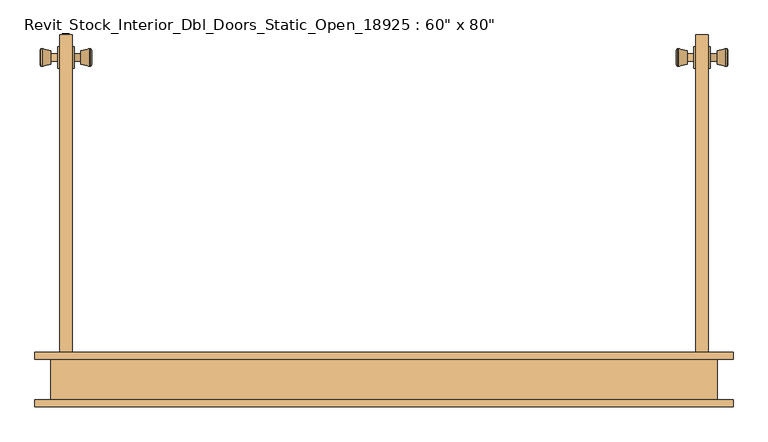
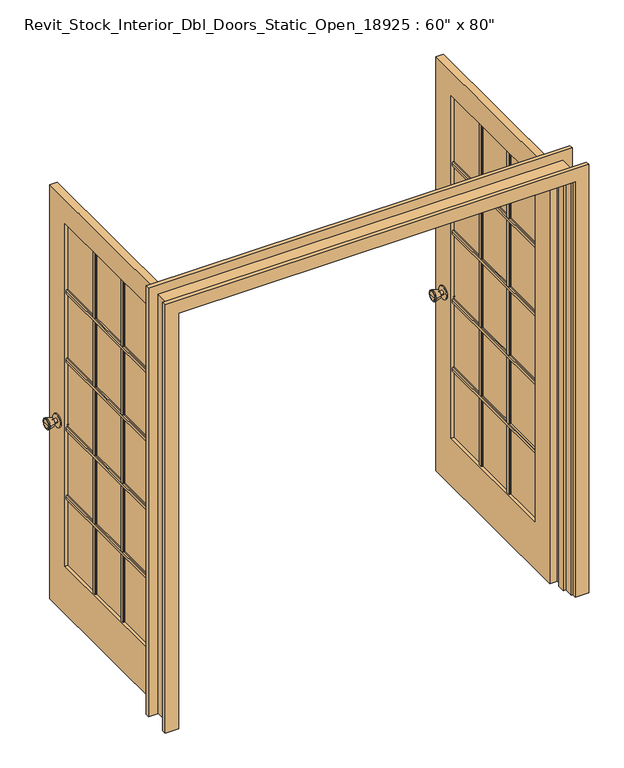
"""IFC4 building model written with IfcOpenShell, lengths in millimetres: door geometry."""

import ifcopenshell
import ifcopenshell.guid

model = None  # the IFC model being written
_history = None  # IfcOwnerHistory: only IFC2X3 demands one
_inside = {}  # id of a spatial element -> (the spatial element, [elements in it])
_under = {}  # id of a project, library or spatial element -> (it, [spatial elements below it])
_declared = {}  # id of a project -> (the project, [libraries it declares])
_typed = {}  # id of a type object -> (the type object, [elements of that type])
_made_of = {}  # id of a material, layer set ... -> (it, [elements and type objects made of it])


def new_model(schema):
    """Start an empty IFC model of exactly this schema.

    Asked for "IFC4X3", IfcOpenShell would pick the latest addendum, in which some entities
    have other attributes; the version numbers below select the first issue.
    IFC2X3 requires an IfcOwnerHistory on every rooted entity: one is made here for all.
    """
    global model, _history
    if schema == "IFC4X3":
        model = ifcopenshell.file(schema_version=(4, 3, 0, 0))
    else:
        model = ifcopenshell.file(schema=schema)
    _inside.clear()
    _under.clear()
    _declared.clear()
    _typed.clear()
    _made_of.clear()
    _history = None
    if model.schema == "IFC2X3":
        org = make("IfcOrganization", Name="unknown")
        user = make(
            "IfcPersonAndOrganization",
            ThePerson=make("IfcPerson", FamilyName="unknown"),
            TheOrganization=org,
        )
        app = make(
            "IfcApplication",
            ApplicationDeveloper=org,
            Version="unknown",
            ApplicationFullName="unknown",
            ApplicationIdentifier="unknown",
        )
        _history = make(
            "IfcOwnerHistory",
            OwningUser=user,
            OwningApplication=app,
            ChangeAction="ADDED",
            CreationDate=0,
        )
    return model


def make(cls, **values):
    """One entity of the class cls with the attributes given. An attribute that is None is left unset."""
    return model.create_entity(
        cls, **{name: value for name, value in values.items() if value is not None}
    )


def rooted(cls, **values):
    """An entity with a GlobalId (a new one), such as an element, a storey or a relation."""
    return make(cls, GlobalId=ifcopenshell.guid.new(), OwnerHistory=_history, **values)


def si_unit(unit_type, name, prefix=None):
    """IfcSIUnit, for example si_unit("LENGTHUNIT", "METRE", prefix="MILLI")."""
    return make("IfcSIUnit", UnitType=unit_type, Prefix=prefix, Name=name)


def assignment(units):
    """IfcUnitAssignment: the units of a project."""
    return None if units is None else make("IfcUnitAssignment", Units=units)


def point(xyz):
    """IfcCartesianPoint."""
    return None if xyz is None else make("IfcCartesianPoint", Coordinates=xyz)


def direction(xyz):
    """IfcDirection."""
    return None if xyz is None else make("IfcDirection", DirectionRatios=xyz)


def frame(location, z_axis=None, x_axis=None):
    """IfcAxis2Placement3D, a coordinate frame: its origin and axes. An axis left out is left unset."""
    return make(
        "IfcAxis2Placement3D",
        Location=point(location),
        Axis=direction(z_axis),
        RefDirection=direction(x_axis),
    )


def frame_2d(location, x_axis=None):
    """IfcAxis2Placement2D, a coordinate frame in the plane: its origin and x axis."""
    return make(
        "IfcAxis2Placement2D", Location=point(location), RefDirection=direction(x_axis)
    )


def origin():
    """The frame at (0, 0, 0) with its axes left unset."""
    return frame((0.0, 0.0, 0.0))


def place(relative_to, where):
    """IfcLocalPlacement: puts the frame where relative to a parent placement (None: the world)."""
    return make(
        "IfcLocalPlacement", PlacementRelTo=relative_to, RelativePlacement=where
    )


def context(
    kind, dimensions, precision=None, world=None, true_north=None, identifier=None
):
    """IfcGeometricRepresentationContext, for example the 3D "Model" context."""
    return make(
        "IfcGeometricRepresentationContext",
        ContextIdentifier=identifier,
        ContextType=kind,
        CoordinateSpaceDimension=dimensions,
        Precision=precision,
        WorldCoordinateSystem=world,
        TrueNorth=true_north,
    )


def project(units=None, contexts=None):
    """IfcProject with its units and contexts."""
    return rooted(
        "IfcProject",
        Name="project",
        RepresentationContexts=contexts,
        UnitsInContext=assignment(units),
    )


def spatial(cls, under=None, at=None, **own):
    """A site, building, storey or space (cls), placed at a placement, below another one or the project."""
    s = rooted(cls, ObjectPlacement=at, **own)
    if under is not None:
        _under.setdefault(under.id(), (under, []))[1].append(s)
    return s


def polyline(points):
    """IfcPolyline through the points."""
    return make("IfcPolyline", Points=[point(p) for p in points])


def circle_curve(where, radius):
    """IfcCircle in the frame where."""
    return make("IfcCircle", Position=where, Radius=radius)


def trimmed(basis, trim1, trim2, sense, master):
    """IfcTrimmedCurve: the piece of a basis curve between two trims."""
    return make(
        "IfcTrimmedCurve",
        BasisCurve=basis,
        Trim1=trim1,
        Trim2=trim2,
        SenseAgreement=sense,
        MasterRepresentation=master,
    )


def segment(curve, same_sense, transition):
    """IfcCompositeCurveSegment."""
    return make(
        "IfcCompositeCurveSegment",
        Transition=transition,
        SameSense=same_sense,
        ParentCurve=curve,
    )


def composite_curve(segments, self_intersect=None):
    """IfcCompositeCurve: segments joined end to end."""
    return make("IfcCompositeCurve", Segments=segments, SelfIntersect=self_intersect)


def outline(outer, holes=None, kind="AREA"):
    """IfcArbitraryClosedProfileDef: a profile drawn as a closed curve; with holes, ...WithVoids."""
    if holes is None:
        return make("IfcArbitraryClosedProfileDef", ProfileType=kind, OuterCurve=outer)
    return make(
        "IfcArbitraryProfileDefWithVoids",
        ProfileType=kind,
        OuterCurve=outer,
        InnerCurves=holes,
    )


def extrude(swept, where, along, depth):
    """IfcExtrudedAreaSolid: the profile swept, set in the frame where, extruded along a direction by depth."""
    return make(
        "IfcExtrudedAreaSolid",
        SweptArea=swept,
        Position=where,
        ExtrudedDirection=direction(along),
        Depth=depth,
    )


def faces_of(points, faces, orient=None, outer=None):
    """IfcFace entities. A face is a list of loops; a loop is a list of indices into points, from 0.

    orient and outer hold one flag for each loop. By default every Orientation is true, the
    first loop of a face is its IfcFaceOuterBound and the others are IfcFaceBound.
    """
    made = []
    for i, loops in enumerate(faces):
        bounds = []
        for j, loop in enumerate(loops):
            is_outer = j == 0 if outer is None else outer[i][j]
            bounds.append(
                make(
                    "IfcFaceOuterBound" if is_outer else "IfcFaceBound",
                    Bound=make("IfcPolyLoop", Polygon=[points[k] for k in loop]),
                    Orientation=True if orient is None else orient[i][j],
                )
            )
        made.append(make("IfcFace", Bounds=bounds))
    return made


def faceted_brep(points, faces, orient=None, outer=None, voids=None):
    """IfcFacetedBrep: a solid bounded by flat faces; with voids (closed shells), ...WithVoids."""
    shared = [point(p) for p in points]
    hull = make("IfcClosedShell", CfsFaces=faces_of(shared, faces, orient, outer))
    if voids is None:
        return make("IfcFacetedBrep", Outer=hull)
    return make(
        "IfcFacetedBrepWithVoids",
        Outer=hull,
        Voids=[
            make(cls, CfsFaces=faces_of(shared, fs, o, b)) for cls, fs, o, b in voids
        ],
    )


def shape(context_of_items, identifier, shape_type, items):
    """IfcShapeRepresentation: the items that make up one representation, for example the "Body"."""
    return make(
        "IfcShapeRepresentation",
        ContextOfItems=context_of_items,
        RepresentationIdentifier=identifier,
        RepresentationType=shape_type,
        Items=items,
    )


def source(mapping_origin, context_of_items, identifier, shape_type, items):
    """IfcRepresentationMap: a shape defined once, which mapped items show again and again."""
    return make(
        "IfcRepresentationMap",
        MappingOrigin=mapping_origin,
        MappedRepresentation=shape(context_of_items, identifier, shape_type, items),
    )


def transform(
    local_origin,
    x_axis=None,
    y_axis=None,
    z_axis=None,
    scale=None,
    scale2=None,
    scale3=None,
    uniform=True,
):
    """IfcCartesianTransformationOperator3D, or its non-uniform kind. x_axis, y_axis, z_axis: its Axis1, 2, 3."""
    if uniform:
        return make(
            "IfcCartesianTransformationOperator3D",
            Axis1=direction(x_axis),
            Axis2=direction(y_axis),
            LocalOrigin=point(local_origin),
            Scale=scale,
            Axis3=direction(z_axis),
        )
    return make(
        "IfcCartesianTransformationOperator3DnonUniform",
        Axis1=direction(x_axis),
        Axis2=direction(y_axis),
        LocalOrigin=point(local_origin),
        Scale=scale,
        Axis3=direction(z_axis),
        Scale2=scale2,
        Scale3=scale3,
    )


def mapped(mapping_source, mapping_target):
    """IfcMappedItem: shows the shape of a source again, moved by a transform."""
    return make(
        "IfcMappedItem", MappingSource=mapping_source, MappingTarget=mapping_target
    )


def made_of(thing, what):
    """Note that an element or type object is made of a material, layer set ...; save() writes the relation."""
    if what is not None:
        _made_of.setdefault(what.id(), (what, []))[1].append(thing)
    return thing


def element(
    cls,
    number,
    at=None,
    inside=None,
    cuts=None,
    type_object=None,
    material=None,
    context=None,
    identifier="Body",
    shape_type=None,
    held_by="IfcProductDefinitionShape",
    body=None,
    shapes=None,
    **own,
):
    """One element of the class cls, such as IfcWall. Its Tag is "e" and its number.

    at: its placement. inside: the storey or other place that contains it. cuts: it is an
    opening in that element (IfcRelVoidsElement). A single representation is given by context,
    identifier, shape_type and body (its items); several are given by shapes. held_by: the class
    of the entity that holds the representations. save() writes the other relations.
    """
    e = rooted(cls, Tag="e%d" % number, ObjectPlacement=at, **own)
    if body is not None:
        shapes = [shape(context, identifier, shape_type, body)]
    if shapes is not None:
        e.Representation = make(held_by, Representations=shapes)
    if inside is not None:
        _inside.setdefault(inside.id(), (inside, []))[1].append(e)
    if cuts is not None:
        rooted(
            "IfcRelVoidsElement", RelatingBuildingElement=cuts, RelatedOpeningElement=e
        )
    if type_object is not None:
        _typed.setdefault(type_object.id(), (type_object, []))[1].append(e)
    return made_of(e, material)


def aggregate(whole, parts):
    """IfcRelAggregates: a whole, such as a stair, and the parts it consists of."""
    return rooted("IfcRelAggregates", RelatingObject=whole, RelatedObjects=parts)


def save(model, path):
    """Write the relations noted so far, then the file.

    IfcRelAggregates (storeys below a building ...), IfcRelContainedInSpatialStructure (elements
    in a storey), IfcRelDefinesByType, IfcRelAssociatesMaterial and IfcRelDeclares: one each for
    every whole, place, type object, material and project.
    """
    for whole, parts in _under.values():
        aggregate(whole, parts)
    for where, things in _inside.values():
        rooted(
            "IfcRelContainedInSpatialStructure",
            RelatedElements=things,
            RelatingStructure=where,
        )
    for kind, things in _typed.values():
        rooted("IfcRelDefinesByType", RelatedObjects=things, RelatingType=kind)
    for what, things in _made_of.values():
        rooted("IfcRelAssociatesMaterial", RelatedObjects=things, RelatingMaterial=what)
    for by, libraries in _declared.values():
        rooted("IfcRelDeclares", RelatingContext=by, RelatedDefinitions=libraries)
    model.write(path)


def plane_surface(at):
    """IfcPlane: the flat surface through the origin of the frame at, square to its z axis."""
    return make("IfcPlane", Position=at)


def cylinder_surface(at, radius):
    """IfcCylindricalSurface: all points at the distance radius from the z axis of the frame at."""
    return make("IfcCylindricalSurface", Position=at, Radius=radius)


def revolved_surface(curve, axis_point, axis_direction):
    """IfcSurfaceOfRevolution: the curve turned about the line through axis_point along axis_direction."""
    return make(
        "IfcSurfaceOfRevolution",
        SweptCurve=make("IfcArbitraryOpenProfileDef", ProfileType="CURVE", Curve=curve),
        AxisPosition=make("IfcAxis1Placement", Location=point(axis_point), Axis=direction(axis_direction)),
    )


def advanced_brep(points, edges, surfaces, faces):
    """IfcAdvancedBrep: a solid bounded by faces that lie on surfaces and meet in shared edges.

    An edge is (start, end): straight between two places in points (the first is 0);
    or (start, end, curve); or (start, end, curve, False) where it runs against its curve.
    A face is (place in surfaces, loops), or (place, loops, False) where it looks against
    its surface's normal. A loop lists edges by number (the first is 1), with a minus sign
    where the edge is run from its end to its start. The first loop is the outer one.
    """
    corners = [point(p) for p in points]
    vertices = [make("IfcVertexPoint", VertexGeometry=c) for c in corners]
    made = []
    for start, end, *more in edges:
        made.append(
            make(
                "IfcEdgeCurve",
                EdgeStart=vertices[start],
                EdgeEnd=vertices[end],
                EdgeGeometry=more[0] if more else make("IfcPolyline", Points=[corners[start], corners[end]]),
                SameSense=more[1] if len(more) > 1 else True,
            )
        )
    hull = []
    for where, loops, *sense in faces:
        bounds = []
        for j, loop in enumerate(loops):
            ring = [make("IfcOrientedEdge", EdgeElement=made[abs(k) - 1], Orientation=k > 0) for k in loop]
            bounds.append(
                make(
                    "IfcFaceOuterBound" if j == 0 else "IfcFaceBound",
                    Bound=make("IfcEdgeLoop", EdgeList=ring),
                    Orientation=True,
                )
            )
        hull.append(make("IfcAdvancedFace", Bounds=bounds, FaceSurface=surfaces[where], SameSense=sense[0] if sense else True))
    return make("IfcAdvancedBrep", Outer=make("IfcClosedShell", CfsFaces=hull))


def door_9bace64e(model_context):
    return source(origin(), model_context, "Body", "SolidModel", [
        advanced_brep(
        [(-920.4, 904.875, 914.4), (-920.4, 894.875, 914.4), (-920.4, 914.875, 914.4), (-969.4, 884.3991324, 914.4), (-969.4, 904.875, 914.4), (-969.4, 925.3508676, 914.4), (-967.5721319, 879.875, 914.4), (-967.5721319, 929.875, 914.4), (-964.1084537, 879.875, 914.4), (-964.1084537, 929.875, 914.4), (-939.4, 886.238764, 914.4), (-939.4, 923.511236, 914.4), (-939.4, 894.875, 914.4), (-939.4, 914.875, 914.4)],
        [
            (0, 1),
            (1, 2, circle_curve(frame((-920.4, 904.875, 914.4), z_axis=(1.0, 0.0, 0.0), x_axis=(0.0, 0.9999999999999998, 0.0)), 10.0)),
            (2, 0),
            (2, 1, circle_curve(frame((-920.4, 904.875, 914.4), z_axis=(1.0, 0.0, 0.0), x_axis=(0.0, 0.9999999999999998, 0.0)), 10.0)),
            (3, 4),
            (4, 5),
            (5, 3, circle_curve(frame((-969.4, 904.875, 914.4), z_axis=(-1.0, 0.0, 0.0), x_axis=(0.0, 0.9999999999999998, 0.0)), 20.4758676)),
            (3, 5, circle_curve(frame((-969.4, 904.875, 914.4), z_axis=(-1.0, 0.0, 0.0), x_axis=(0.0, 0.9999999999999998, 0.0)), 20.4758676)),
            (6, 3),
            (5, 7),
            (7, 6, circle_curve(frame((-967.5721319, 904.875, 914.4), z_axis=(-1.0, 0.0, 0.0), x_axis=(0.0, 0.9999999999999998, 0.0)), 25.0)),
            (6, 7, circle_curve(frame((-967.5721319, 904.875, 914.4), z_axis=(-1.0, 0.0, 0.0), x_axis=(0.0, 0.9999999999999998, 0.0)), 25.0)),
            (8, 6),
            (7, 9),
            (9, 8, circle_curve(frame((-964.1084537, 904.875, 914.4), z_axis=(-1.0, 0.0, 0.0), x_axis=(0.0, 0.9999999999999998, 0.0)), 25.0)),
            (8, 9, circle_curve(frame((-964.1084537, 904.875, 914.4), z_axis=(-1.0, 0.0, 0.0), x_axis=(0.0, 0.9999999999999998, 0.0)), 25.0)),
            (10, 8),
            (9, 11),
            (11, 10, circle_curve(frame((-939.4, 904.875, 914.4), z_axis=(-1.0, 0.0, 0.0), x_axis=(0.0, 0.9999999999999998, 0.0)), 18.636236)),
            (10, 11, circle_curve(frame((-939.4, 904.875, 914.4), z_axis=(-1.0, 0.0, 0.0), x_axis=(0.0, 0.9999999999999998, 0.0)), 18.636236)),
            (12, 10),
            (11, 13),
            (13, 12, circle_curve(frame((-939.4, 904.875, 914.4), z_axis=(-1.0, 0.0, 0.0), x_axis=(0.0, 0.9999999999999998, 0.0)), 10.0)),
            (12, 13, circle_curve(frame((-939.4, 904.875, 914.4), z_axis=(-1.0, 0.0, 0.0), x_axis=(0.0, 0.9999999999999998, 0.0)), 10.0)),
            (1, 12),
            (13, 2),
        ],
        [
            plane_surface(frame((-920.4, 904.875, 914.4), z_axis=(1.0, 0.0, 0.0), x_axis=(0.0, 1.0, 0.0))),
            plane_surface(frame((-969.4, 904.875, 914.4), z_axis=(-1.0, 0.0, 0.0), x_axis=(0.0, 1.0, 0.0))),
            revolved_surface(polyline([(-969.4, 925.3508676, 914.4), (-967.5721319, 929.875, 914.4)]), (-920.4, 904.875, 914.4), (0.9999999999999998, 0.0, 0.0)),
            cylinder_surface(frame((-920.4, 904.875, 914.4), z_axis=(0.9999999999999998, 0.0, 0.0), x_axis=(0.0, 0.9999999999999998, 0.0)), 25.0),
            revolved_surface(polyline([(-964.1084537, 929.875, 914.4), (-939.4, 923.511236, 914.4)]), (-920.4, 904.875, 914.4), (0.9999999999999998, 0.0, 0.0)),
            plane_surface(frame((-939.4, 904.875, 914.4), z_axis=(1.0, 0.0, 0.0), x_axis=(0.0, 1.0, 0.0))),
            cylinder_surface(frame((-920.4, 904.875, 914.4), z_axis=(0.9999999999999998, 0.0, 0.0), x_axis=(0.0, 0.9999999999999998, 0.0)), 10.0),
        ],
        [
            (0, [[1, 2, 3]]),
            (0, [[-3, 4, -1]]),
            (1, [[5, 6, 7]]),
            (1, [[-6, -5, 8]]),
            (2, [[9, -7, 10, 11]]),
            (2, [[-10, -8, -9, 12]]),
            (3, [[13, -11, 14, 15]]),
            (3, [[-14, -12, -13, 16]]),
            (4, [[17, -15, 18, 19]]),
            (4, [[-18, -16, -17, 20]]),
            (5, [[21, -19, 22, 23]]),
            (5, [[-22, -20, -21, 24]]),
            (6, [[25, -23, 26, -2]]),
            (6, [[-26, -24, -25, -4]]),
        ],
    ),
        extrude(outline(composite_curve([segment(trimmed(circle_curve(frame_2d((904.875, 914.4)), 30.0), [point((934.875, 914.4))], [point((874.875, 914.4))], False, "CARTESIAN"), True, "CONTINUOUS"), segment(trimmed(circle_curve(frame_2d((904.875, 914.4)), 30.0), [point((874.875, 914.4))], [point((934.875, 914.4))], False, "CARTESIAN"), True, "CONTINUOUS")], self_intersect=False)), frame((-920.4, 0.0, 0.0), z_axis=(1.0, 0.0, 0.0), x_axis=(0.0, 1.0, 0.0)), (0.0, 0.0, 1.0), 6.0),
        advanced_brep(
        [(-873.475, 904.875, 914.4), (-873.475, 914.875, 914.4), (-873.475, 894.875, 914.4), (-824.475, 884.3991324, 914.4), (-824.475, 925.3508676, 914.4), (-824.475, 904.875, 914.4), (-826.3028681, 879.875, 914.4), (-826.3028681, 929.875, 914.4), (-829.7665463, 879.875, 914.4), (-829.7665463, 929.875, 914.4), (-854.475, 886.238764, 914.4), (-854.475, 923.511236, 914.4), (-854.475, 894.875, 914.4), (-854.475, 914.875, 914.4)],
        [
            (0, 1),
            (1, 2, circle_curve(frame((-873.475, 904.875, 914.4), z_axis=(-1.0, 0.0, 0.0), x_axis=(0.0, 0.9999999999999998, 0.0)), 10.0)),
            (2, 0),
            (2, 1, circle_curve(frame((-873.475, 904.875, 914.4), z_axis=(-1.0, 0.0, 0.0), x_axis=(0.0, 0.9999999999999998, 0.0)), 10.0)),
            (3, 4, circle_curve(frame((-824.475, 904.875, 914.4), z_axis=(1.0, 0.0, 0.0), x_axis=(0.0, 0.9999999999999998, 0.0)), 20.4758676)),
            (4, 5),
            (5, 3),
            (4, 3, circle_curve(frame((-824.475, 904.875, 914.4), z_axis=(1.0, 0.0, 0.0), x_axis=(0.0, 0.9999999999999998, 0.0)), 20.4758676)),
            (6, 7, circle_curve(frame((-826.3028681, 904.875, 914.4), z_axis=(1.0, 0.0, 0.0), x_axis=(0.0, 0.9999999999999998, 0.0)), 25.0)),
            (7, 4),
            (3, 6),
            (7, 6, circle_curve(frame((-826.3028681, 904.875, 914.4), z_axis=(1.0, 0.0, 0.0), x_axis=(0.0, 0.9999999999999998, 0.0)), 25.0)),
            (8, 9, circle_curve(frame((-829.7665463, 904.875, 914.4), z_axis=(1.0, 0.0, 0.0), x_axis=(0.0, 0.9999999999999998, 0.0)), 25.0)),
            (9, 7),
            (6, 8),
            (9, 8, circle_curve(frame((-829.7665463, 904.875, 914.4), z_axis=(1.0, 0.0, 0.0), x_axis=(0.0, 0.9999999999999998, 0.0)), 25.0)),
            (10, 11, circle_curve(frame((-854.475, 904.875, 914.4), z_axis=(1.0, 0.0, 0.0), x_axis=(0.0, 0.9999999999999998, 0.0)), 18.636236)),
            (11, 9),
            (8, 10),
            (11, 10, circle_curve(frame((-854.475, 904.875, 914.4), z_axis=(1.0, 0.0, 0.0), x_axis=(0.0, 0.9999999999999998, 0.0)), 18.636236)),
            (12, 13, circle_curve(frame((-854.475, 904.875, 914.4), z_axis=(1.0, 0.0, 0.0), x_axis=(0.0, 0.9999999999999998, 0.0)), 10.0)),
            (13, 11),
            (10, 12),
            (13, 12, circle_curve(frame((-854.475, 904.875, 914.4), z_axis=(1.0, 0.0, 0.0), x_axis=(0.0, 0.9999999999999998, 0.0)), 10.0)),
            (1, 13),
            (12, 2),
        ],
        [
            plane_surface(frame((-873.475, 904.875, 914.4), z_axis=(-1.0, 0.0, 0.0), x_axis=(0.0, 1.0, 0.0))),
            plane_surface(frame((-824.475, 904.875, 914.4), z_axis=(1.0, 0.0, 0.0), x_axis=(0.0, 1.0, 0.0))),
            revolved_surface(polyline([(-824.475, 925.3508676, 914.4), (-826.3028681, 929.875, 914.4)]), (-873.475, 904.875, 914.4), (-0.9999999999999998, 0.0, 0.0)),
            cylinder_surface(frame((-873.475, 904.875, 914.4), z_axis=(-0.9999999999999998, 0.0, 0.0), x_axis=(0.0, 0.9999999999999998, 0.0)), 25.0),
            revolved_surface(polyline([(-829.7665463, 929.875, 914.4), (-854.475, 923.511236, 914.4)]), (-873.475, 904.875, 914.4), (-0.9999999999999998, 0.0, 0.0)),
            plane_surface(frame((-854.475, 904.875, 914.4), z_axis=(-1.0, 0.0, 0.0), x_axis=(0.0, 1.0, 0.0))),
            cylinder_surface(frame((-873.475, 904.875, 914.4), z_axis=(-0.9999999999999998, 0.0, 0.0), x_axis=(0.0, 0.9999999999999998, 0.0)), 10.0),
        ],
        [
            (0, [[1, 2, 3]]),
            (0, [[-3, 4, -1]]),
            (1, [[5, 6, 7]]),
            (1, [[8, -7, -6]]),
            (2, [[9, 10, -5, 11]]),
            (2, [[12, -11, -8, -10]]),
            (3, [[13, 14, -9, 15]]),
            (3, [[16, -15, -12, -14]]),
            (4, [[17, 18, -13, 19]]),
            (4, [[20, -19, -16, -18]]),
            (5, [[21, 22, -17, 23]]),
            (5, [[24, -23, -20, -22]]),
            (6, [[-2, 25, -21, 26]]),
            (6, [[-4, -26, -24, -25]]),
        ],
    ),
        extrude(outline(composite_curve([segment(trimmed(circle_curve(frame_2d((904.875, 914.4)), 30.0), [point((934.875, 914.4))], [point((874.875, 914.4))], False, "CARTESIAN"), True, "CONTINUOUS"), segment(trimmed(circle_curve(frame_2d((904.875, 914.4)), 30.0), [point((874.875, 914.4))], [point((934.875, 914.4))], False, "CARTESIAN"), True, "CONTINUOUS")], self_intersect=False)), frame((-879.475, 0.0, 0.0), z_axis=(1.0, 0.0, 0.0), x_axis=(0.0, 1.0, 0.0)), (0.0, 0.0, 1.0), 6.0),
        advanced_brep(
        [(873.475, 904.875, 914.4), (873.475, 894.875, 914.4), (873.475, 914.875, 914.4), (824.475, 884.3991324, 914.4), (824.475, 904.875, 914.4), (824.475, 925.3508676, 914.4), (826.3028681, 879.875, 914.4), (826.3028681, 929.875, 914.4), (829.7665463, 879.875, 914.4), (829.7665463, 929.875, 914.4), (854.475, 886.238764, 914.4), (854.475, 923.511236, 914.4), (854.475, 894.875, 914.4), (854.475, 914.875, 914.4)],
        [
            (0, 1),
            (1, 2, circle_curve(frame((873.475, 904.875, 914.4), z_axis=(1.0, 0.0, 0.0), x_axis=(0.0, 1.0, 0.0)), 10.0)),
            (2, 0),
            (2, 1, circle_curve(frame((873.475, 904.875, 914.4), z_axis=(1.0, 0.0, 0.0), x_axis=(0.0, 1.0, 0.0)), 10.0)),
            (3, 4),
            (4, 5),
            (5, 3, circle_curve(frame((824.475, 904.875, 914.4), z_axis=(-1.0, 0.0, 0.0), x_axis=(0.0, 1.0, 0.0)), 20.4758676)),
            (3, 5, circle_curve(frame((824.475, 904.875, 914.4), z_axis=(-1.0, 0.0, 0.0), x_axis=(0.0, 1.0, 0.0)), 20.4758676)),
            (6, 3),
            (5, 7),
            (7, 6, circle_curve(frame((826.3028681, 904.875, 914.4), z_axis=(-1.0, 0.0, 0.0), x_axis=(0.0, 1.0, 0.0)), 25.0)),
            (6, 7, circle_curve(frame((826.3028681, 904.875, 914.4), z_axis=(-1.0, 0.0, 0.0), x_axis=(0.0, 1.0, 0.0)), 25.0)),
            (8, 6),
            (7, 9),
            (9, 8, circle_curve(frame((829.7665463, 904.875, 914.4), z_axis=(-1.0, 0.0, 0.0), x_axis=(0.0, 1.0, 0.0)), 25.0)),
            (8, 9, circle_curve(frame((829.7665463, 904.875, 914.4), z_axis=(-1.0, 0.0, 0.0), x_axis=(0.0, 1.0, 0.0)), 25.0)),
            (10, 8),
            (9, 11),
            (11, 10, circle_curve(frame((854.475, 904.875, 914.4), z_axis=(-1.0, 0.0, 0.0), x_axis=(0.0, 1.0, 0.0)), 18.636236)),
            (10, 11, circle_curve(frame((854.475, 904.875, 914.4), z_axis=(-1.0, 0.0, 0.0), x_axis=(0.0, 1.0, 0.0)), 18.636236)),
            (12, 10),
            (11, 13),
            (13, 12, circle_curve(frame((854.475, 904.875, 914.4), z_axis=(-1.0, 0.0, 0.0), x_axis=(0.0, 1.0, 0.0)), 10.0)),
            (12, 13, circle_curve(frame((854.475, 904.875, 914.4), z_axis=(-1.0, 0.0, 0.0), x_axis=(0.0, 1.0, 0.0)), 10.0)),
            (1, 12),
            (13, 2),
        ],
        [
            plane_surface(frame((873.475, 904.875, 914.4), z_axis=(1.0, 0.0, 0.0), x_axis=(0.0, 1.0, 0.0))),
            plane_surface(frame((824.475, 904.875, 914.4), z_axis=(-1.0, 0.0, 0.0), x_axis=(0.0, 1.0, 0.0))),
            revolved_surface(polyline([(824.475, 925.3508676, 914.4), (826.3028681, 929.875, 914.4)]), (873.475, 904.875, 914.4), (1.0, 0.0, 0.0)),
            cylinder_surface(frame((873.475, 904.875, 914.4), z_axis=(1.0, 0.0, 0.0), x_axis=(0.0, 1.0, 0.0)), 25.0),
            revolved_surface(polyline([(829.7665463, 929.875, 914.4), (854.475, 923.511236, 914.4)]), (873.475, 904.875, 914.4), (1.0, 0.0, 0.0)),
            plane_surface(frame((854.475, 904.875, 914.4), z_axis=(1.0, 0.0, 0.0), x_axis=(0.0, 1.0, 0.0))),
            cylinder_surface(frame((873.475, 904.875, 914.4), z_axis=(1.0, 0.0, 0.0), x_axis=(0.0, 1.0, 0.0)), 10.0),
        ],
        [
            (0, [[1, 2, 3]]),
            (0, [[-3, 4, -1]]),
            (1, [[5, 6, 7]]),
            (1, [[-6, -5, 8]]),
            (2, [[9, -7, 10, 11]]),
            (2, [[-10, -8, -9, 12]]),
            (3, [[13, -11, 14, 15]]),
            (3, [[-14, -12, -13, 16]]),
            (4, [[17, -15, 18, 19]]),
            (4, [[-18, -16, -17, 20]]),
            (5, [[21, -19, 22, 23]]),
            (5, [[-22, -20, -21, 24]]),
            (6, [[25, -23, 26, -2]]),
            (6, [[-26, -24, -25, -4]]),
        ],
    ),
        extrude(outline(composite_curve([segment(trimmed(circle_curve(frame_2d((904.875, 914.4)), 30.0), [point((934.875, 914.4))], [point((874.875, 914.4))], False, "CARTESIAN"), True, "CONTINUOUS"), segment(trimmed(circle_curve(frame_2d((904.875, 914.4)), 30.0), [point((874.875, 914.4))], [point((934.875, 914.4))], False, "CARTESIAN"), True, "CONTINUOUS")], self_intersect=False)), frame((873.475, 0.0, 0.0), z_axis=(1.0, 0.0, 0.0), x_axis=(0.0, 1.0, 0.0)), (0.0, 0.0, 1.0), 6.0),
        advanced_brep(
        [(920.4, 904.875, 914.4), (920.4, 914.875, 914.4), (920.4, 894.875, 914.4), (969.4, 884.3991324, 914.4), (969.4, 925.3508676, 914.4), (969.4, 904.875, 914.4), (967.5721319, 879.875, 914.4), (967.5721319, 929.875, 914.4), (964.1084537, 879.875, 914.4), (964.1084537, 929.875, 914.4), (939.4, 886.238764, 914.4), (939.4, 923.511236, 914.4), (939.4, 894.875, 914.4), (939.4, 914.875, 914.4)],
        [
            (0, 1),
            (1, 2, circle_curve(frame((920.4, 904.875, 914.4), z_axis=(-1.0, 0.0, 0.0), x_axis=(0.0, 1.0, 0.0)), 10.0)),
            (2, 0),
            (2, 1, circle_curve(frame((920.4, 904.875, 914.4), z_axis=(-1.0, 0.0, 0.0), x_axis=(0.0, 1.0, 0.0)), 10.0)),
            (3, 4, circle_curve(frame((969.4, 904.875, 914.4), z_axis=(1.0, 0.0, 0.0), x_axis=(0.0, 1.0, 0.0)), 20.4758676)),
            (4, 5),
            (5, 3),
            (4, 3, circle_curve(frame((969.4, 904.875, 914.4), z_axis=(1.0, 0.0, 0.0), x_axis=(0.0, 1.0, 0.0)), 20.4758676)),
            (6, 7, circle_curve(frame((967.5721319, 904.875, 914.4), z_axis=(1.0, 0.0, 0.0), x_axis=(0.0, 1.0, 0.0)), 25.0)),
            (7, 4),
            (3, 6),
            (7, 6, circle_curve(frame((967.5721319, 904.875, 914.4), z_axis=(1.0, 0.0, 0.0), x_axis=(0.0, 1.0, 0.0)), 25.0)),
            (8, 9, circle_curve(frame((964.1084537, 904.875, 914.4), z_axis=(1.0, 0.0, 0.0), x_axis=(0.0, 1.0, 0.0)), 25.0)),
            (9, 7),
            (6, 8),
            (9, 8, circle_curve(frame((964.1084537, 904.875, 914.4), z_axis=(1.0, 0.0, 0.0), x_axis=(0.0, 1.0, 0.0)), 25.0)),
            (10, 11, circle_curve(frame((939.4, 904.875, 914.4), z_axis=(1.0, 0.0, 0.0), x_axis=(0.0, 1.0, 0.0)), 18.636236)),
            (11, 9),
            (8, 10),
            (11, 10, circle_curve(frame((939.4, 904.875, 914.4), z_axis=(1.0, 0.0, 0.0), x_axis=(0.0, 1.0, 0.0)), 18.636236)),
            (12, 13, circle_curve(frame((939.4, 904.875, 914.4), z_axis=(1.0, 0.0, 0.0), x_axis=(0.0, 1.0, 0.0)), 10.0)),
            (13, 11),
            (10, 12),
            (13, 12, circle_curve(frame((939.4, 904.875, 914.4), z_axis=(1.0, 0.0, 0.0), x_axis=(0.0, 1.0, 0.0)), 10.0)),
            (1, 13),
            (12, 2),
        ],
        [
            plane_surface(frame((920.4, 904.875, 914.4), z_axis=(-1.0, 0.0, 0.0), x_axis=(0.0, 1.0, 0.0))),
            plane_surface(frame((969.4, 904.875, 914.4), z_axis=(1.0, 0.0, 0.0), x_axis=(0.0, 1.0, 0.0))),
            revolved_surface(polyline([(969.4, 925.3508676, 914.4), (967.5721319, 929.875, 914.4)]), (920.4, 904.875, 914.4), (-1.0, 0.0, 0.0)),
            cylinder_surface(frame((920.4, 904.875, 914.4), z_axis=(-1.0, 0.0, 0.0), x_axis=(0.0, 1.0, 0.0)), 25.0),
            revolved_surface(polyline([(964.1084537, 929.875, 914.4), (939.4, 923.511236, 914.4)]), (920.4, 904.875, 914.4), (-1.0, 0.0, 0.0)),
            plane_surface(frame((939.4, 904.875, 914.4), z_axis=(-1.0, 0.0, 0.0), x_axis=(0.0, 1.0, 0.0))),
            cylinder_surface(frame((920.4, 904.875, 914.4), z_axis=(-1.0, 0.0, 0.0), x_axis=(0.0, 1.0, 0.0)), 10.0),
        ],
        [
            (0, [[1, 2, 3]]),
            (0, [[-3, 4, -1]]),
            (1, [[5, 6, 7]]),
            (1, [[8, -7, -6]]),
            (2, [[9, 10, -5, 11]]),
            (2, [[12, -11, -8, -10]]),
            (3, [[13, 14, -9, 15]]),
            (3, [[16, -15, -12, -14]]),
            (4, [[17, 18, -13, 19]]),
            (4, [[20, -19, -16, -18]]),
            (5, [[21, 22, -17, 23]]),
            (5, [[24, -23, -20, -22]]),
            (6, [[-2, 25, -21, 26]]),
            (6, [[-4, -26, -24, -25]]),
        ],
    ),
        extrude(outline(composite_curve([segment(trimmed(circle_curve(frame_2d((904.875, 914.4)), 30.0), [point((934.875, 914.4))], [point((874.875, 914.4))], False, "CARTESIAN"), True, "CONTINUOUS"), segment(trimmed(circle_curve(frame_2d((904.875, 914.4)), 30.0), [point((874.875, 914.4))], [point((934.875, 914.4))], False, "CARTESIAN"), True, "CONTINUOUS")], self_intersect=False)), frame((914.4, 0.0, 0.0), z_axis=(1.0, 0.0, 0.0), x_axis=(0.0, 1.0, 0.0)), (0.0, 0.0, 1.0), 6.0),
        extrude(outline(polyline([(1586.23, 900.1125), (1567.18, 900.1125), (1567.18, 906.4625), (1570.355, 909.6375), (1583.055, 909.6375), (1586.23, 906.4625), (1586.23, 900.1125)])), frame((0.0, 174.625, 0.0), z_axis=(0.0, 1.0, 0.0), x_axis=(0.0, 0.0, 1.0)), (0.0, 0.0, 1.0), 673.1),
        extrude(outline(polyline([(1249.9975, 900.1125), (1230.9475, 900.1125), (1230.9475, 906.4625), (1234.1225, 909.6375), (1246.8225, 909.6375), (1249.9975, 906.4625), (1249.9975, 900.1125)])), frame((0.0, 174.625, 0.0), z_axis=(0.0, 1.0, 0.0), x_axis=(0.0, 0.0, 1.0)), (0.0, 0.0, 1.0), 673.1),
        extrude(outline(polyline([(913.765, 900.1125), (894.715, 900.1125), (894.715, 906.4625), (897.89, 909.6375), (910.59, 909.6375), (913.765, 906.4625), (913.765, 900.1125)])), frame((0.0, 174.625, 0.0), z_axis=(0.0, 1.0, 0.0), x_axis=(0.0, 0.0, 1.0)), (0.0, 0.0, 1.0), 673.1),
        extrude(outline(polyline([(577.5325, 900.1125), (558.4825, 900.1125), (558.4825, 906.4625), (561.6575, 909.6375), (574.3575, 909.6375), (577.5325, 906.4625), (577.5325, 900.1125)])), frame((0.0, 174.625, 0.0), z_axis=(0.0, 1.0, 0.0), x_axis=(0.0, 0.0, 1.0)), (0.0, 0.0, 1.0), 673.1),
        extrude(outline(polyline([(900.1125, 613.8333333), (900.1125, 632.8833333), (906.4625, 632.8833333), (909.6375, 629.7083333), (909.6375, 617.0083333), (906.4625, 613.8333333), (900.1125, 613.8333333)])), frame((0.0, 0.0, 231.775), z_axis=(0.0, 0.0, 1.0), x_axis=(1.0, 0.0, 0.0)), (0.0, 0.0, 1.0), 1681.1625),
        extrude(outline(polyline([(900.1125, 389.4666667), (900.1125, 408.5166667), (906.4625, 408.5166667), (909.6375, 405.3416667), (909.6375, 392.6416667), (906.4625, 389.4666667), (900.1125, 389.4666667)])), frame((0.0, 0.0, 231.775), z_axis=(0.0, 0.0, 1.0), x_axis=(1.0, 0.0, 0.0)), (0.0, 0.0, 1.0), 1681.1625),
        extrude(outline(polyline([(1586.23, 893.7625), (1586.23, 887.4125), (1583.055, 884.2375), (1570.355, 884.2375), (1567.18, 887.4125), (1567.18, 893.7625), (1586.23, 893.7625)])), frame((0.0, 174.625, 0.0), z_axis=(0.0, 1.0, 0.0), x_axis=(0.0, 0.0, 1.0)), (0.0, 0.0, 1.0), 673.1),
        extrude(outline(polyline([(1249.9975, 893.7625), (1249.9975, 887.4125), (1246.8225, 884.2375), (1234.1225, 884.2375), (1230.9475, 887.4125), (1230.9475, 893.7625), (1249.9975, 893.7625)])), frame((0.0, 174.625, 0.0), z_axis=(0.0, 1.0, 0.0), x_axis=(0.0, 0.0, 1.0)), (0.0, 0.0, 1.0), 673.1),
        extrude(outline(polyline([(913.765, 893.7625), (913.765, 887.4125), (910.59, 884.2375), (897.89, 884.2375), (894.715, 887.4125), (894.715, 893.7625), (913.765, 893.7625)])), frame((0.0, 174.625, 0.0), z_axis=(0.0, 1.0, 0.0), x_axis=(0.0, 0.0, 1.0)), (0.0, 0.0, 1.0), 673.1),
        extrude(outline(polyline([(577.5325, 893.7625), (577.5325, 887.4125), (574.3575, 884.2375), (561.6575, 884.2375), (558.4825, 887.4125), (558.4825, 893.7625), (577.5325, 893.7625)])), frame((0.0, 174.625, 0.0), z_axis=(0.0, 1.0, 0.0), x_axis=(0.0, 0.0, 1.0)), (0.0, 0.0, 1.0), 673.1),
        extrude(outline(polyline([(893.7625, 613.8333333), (887.4125, 613.8333333), (884.2375, 617.0083333), (884.2375, 629.7083333), (887.4125, 632.8833333), (893.7625, 632.8833333), (893.7625, 613.8333333)])), frame((0.0, 0.0, 231.775), z_axis=(0.0, 0.0, 1.0), x_axis=(1.0, 0.0, 0.0)), (0.0, 0.0, 1.0), 1681.1625),
        extrude(outline(polyline([(893.7625, 389.4666667), (887.4125, 389.4666667), (884.2375, 392.6416667), (884.2375, 405.3416667), (887.4125, 408.5166667), (893.7625, 408.5166667), (893.7625, 389.4666667)])), frame((0.0, 0.0, 231.775), z_axis=(0.0, 0.0, 1.0), x_axis=(1.0, 0.0, 0.0)), (0.0, 0.0, 1.0), 1681.1625),
        extrude(outline(polyline([(1586.23, -900.1125), (1586.23, -906.4625), (1583.055, -909.6375), (1570.355, -909.6375), (1567.18, -906.4625), (1567.18, -900.1125), (1586.23, -900.1125)])), frame((0.0, 174.625, 0.0), z_axis=(0.0, 1.0, 0.0), x_axis=(0.0, 0.0, 1.0)), (0.0, 0.0, 1.0), 673.1),
        extrude(outline(polyline([(1249.9975, -900.1125), (1249.9975, -906.4625), (1246.8225, -909.6375), (1234.1225, -909.6375), (1230.9475, -906.4625), (1230.9475, -900.1125), (1249.9975, -900.1125)])), frame((0.0, 174.625, 0.0), z_axis=(0.0, 1.0, 0.0), x_axis=(0.0, 0.0, 1.0)), (0.0, 0.0, 1.0), 673.1),
        extrude(outline(polyline([(913.765, -900.1125), (913.765, -906.4625), (910.59, -909.6375), (897.89, -909.6375), (894.715, -906.4625), (894.715, -900.1125), (913.765, -900.1125)])), frame((0.0, 174.625, 0.0), z_axis=(0.0, 1.0, 0.0), x_axis=(0.0, 0.0, 1.0)), (0.0, 0.0, 1.0), 673.1),
        extrude(outline(polyline([(577.5325, -900.1125), (577.5325, -906.4625), (574.3575, -909.6375), (561.6575, -909.6375), (558.4825, -906.4625), (558.4825, -900.1125), (577.5325, -900.1125)])), frame((0.0, 174.625, 0.0), z_axis=(0.0, 1.0, 0.0), x_axis=(0.0, 0.0, 1.0)), (0.0, 0.0, 1.0), 673.1),
        extrude(outline(polyline([(-900.1125, 613.8333333), (-906.4625, 613.8333333), (-909.6375, 617.0083333), (-909.6375, 629.7083333), (-906.4625, 632.8833333), (-900.1125, 632.8833333), (-900.1125, 613.8333333)])), frame((0.0, 0.0, 231.775), z_axis=(0.0, 0.0, 1.0), x_axis=(1.0, 0.0, 0.0)), (0.0, 0.0, 1.0), 1681.1625),
        extrude(outline(polyline([(-900.1125, 389.4666667), (-906.4625, 389.4666667), (-909.6375, 392.6416667), (-909.6375, 405.3416667), (-906.4625, 408.5166667), (-900.1125, 408.5166667), (-900.1125, 389.4666667)])), frame((0.0, 0.0, 231.775), z_axis=(0.0, 0.0, 1.0), x_axis=(1.0, 0.0, 0.0)), (0.0, 0.0, 1.0), 1681.1625),
        extrude(outline(polyline([(1586.23, -893.7625), (1567.18, -893.7625), (1567.18, -887.4125), (1570.355, -884.2375), (1583.055, -884.2375), (1586.23, -887.4125), (1586.23, -893.7625)])), frame((0.0, 174.625, 0.0), z_axis=(0.0, 1.0, 0.0), x_axis=(0.0, 0.0, 1.0)), (0.0, 0.0, 1.0), 673.1),
        extrude(outline(polyline([(1249.9975, -893.7625), (1230.9475, -893.7625), (1230.9475, -887.4125), (1234.1225, -884.2375), (1246.8225, -884.2375), (1249.9975, -887.4125), (1249.9975, -893.7625)])), frame((0.0, 174.625, 0.0), z_axis=(0.0, 1.0, 0.0), x_axis=(0.0, 0.0, 1.0)), (0.0, 0.0, 1.0), 673.1),
        extrude(outline(polyline([(913.765, -893.7625), (894.715, -893.7625), (894.715, -887.4125), (897.89, -884.2375), (910.59, -884.2375), (913.765, -887.4125), (913.765, -893.7625)])), frame((0.0, 174.625, 0.0), z_axis=(0.0, 1.0, 0.0), x_axis=(0.0, 0.0, 1.0)), (0.0, 0.0, 1.0), 673.1),
        extrude(outline(polyline([(577.5325, -893.7625), (558.4825, -893.7625), (558.4825, -887.4125), (561.6575, -884.2375), (574.3575, -884.2375), (577.5325, -887.4125), (577.5325, -893.7625)])), frame((0.0, 174.625, 0.0), z_axis=(0.0, 1.0, 0.0), x_axis=(0.0, 0.0, 1.0)), (0.0, 0.0, 1.0), 673.1),
        extrude(outline(polyline([(-893.7625, 613.8333333), (-893.7625, 632.8833333), (-887.4125, 632.8833333), (-884.2375, 629.7083333), (-884.2375, 617.0083333), (-887.4125, 613.8333333), (-893.7625, 613.8333333)])), frame((0.0, 0.0, 231.775), z_axis=(0.0, 0.0, 1.0), x_axis=(1.0, 0.0, 0.0)), (0.0, 0.0, 1.0), 1681.1625),
        extrude(outline(polyline([(-893.7625, 389.4666667), (-893.7625, 408.5166667), (-887.4125, 408.5166667), (-884.2375, 405.3416667), (-884.2375, 392.6416667), (-887.4125, 389.4666667), (-893.7625, 389.4666667)])), frame((0.0, 0.0, 231.775), z_axis=(0.0, 0.0, 1.0), x_axis=(1.0, 0.0, 0.0)), (0.0, 0.0, 1.0), 1681.1625),
        faceted_brep([(939.8, 53.975, 0.0), (939.8, -60.325, 0.0), (914.4, -60.325, 0.0), (914.4, -15.875, 0.0), (901.7, -15.875, 0.0), (901.7, 19.05, 0.0), (914.4, 19.05, 0.0), (914.4, 53.975, 0.0), (939.8, 53.975, 2057.4), (939.8, -60.325, 2057.4), (-939.8, -60.325, 2057.4), (-939.8, -60.325, 0.0), (-914.4, -60.325, 0.0), (-914.4, -60.325, 2032.0), (914.4, -60.325, 2032.0), (914.4, -15.875, 2032.0), (-914.4, -15.875, 2032.0), (-914.4, -15.875, 0.0), (-901.7, -15.875, 0.0), (-901.7, -15.875, 2019.3), (901.7, -15.875, 2019.3), (901.7, 19.05, 2019.3), (-901.7, 19.05, 2019.3), (-901.7, 19.05, 0.0), (-914.4, 19.05, 0.0), (-914.4, 19.05, 2032.0), (914.4, 19.05, 2032.0), (914.4, 53.975, 2032.0), (-914.4, 53.975, 2032.0), (-914.4, 53.975, 0.0), (-939.8, 53.975, 0.0), (-939.8, 53.975, 2057.4)], [[[0, 1, 2, 3, 4, 5, 6, 7]], [[1, 0, 8, 9]], [[2, 1, 9, 10, 11, 12, 13, 14]], [[3, 2, 14, 15]], [[4, 3, 15, 16, 17, 18, 19, 20]], [[5, 4, 20, 21]], [[6, 5, 21, 22, 23, 24, 25, 26]], [[7, 6, 26, 27]], [[0, 7, 27, 28, 29, 30, 31, 8]], [[9, 8, 31, 10]], [[15, 14, 13, 16]], [[21, 20, 19, 22]], [[27, 26, 25, 28]], [[30, 29, 24, 23, 18, 17, 12, 11]], [[10, 31, 30, 11]], [[16, 13, 12, 17]], [[22, 19, 18, 23]], [[28, 25, 24, 29]]]),
        extrude(outline(polyline([(0.0, 920.75), (0.0, 984.25), (2101.85, 984.25), (2101.85, -984.25), (0.0, -984.25), (0.0, -920.75), (2038.35, -920.75), (2038.35, 920.75), (0.0, 920.75)])), frame((0.0, -79.375, 0.0), z_axis=(0.0, 1.0, 0.0), x_axis=(0.0, 0.0, 1.0)), (0.0, 0.0, 1.0), 19.05),
        extrude(outline(polyline([(0.0, 920.75), (0.0, 984.25), (2101.85, 984.25), (2101.85, -984.25), (0.0, -984.25), (0.0, -920.75), (2038.35, -920.75), (2038.35, 920.75), (0.0, 920.75)])), frame((0.0, 53.975, 0.0), z_axis=(0.0, 1.0, 0.0), x_axis=(0.0, 0.0, 1.0)), (0.0, 0.0, 1.0), 19.05),
        extrude(outline(polyline([(-893.7625, 847.725), (-893.7625, 174.625), (-900.1125, 174.625), (-900.1125, 847.725), (-893.7625, 847.725)])), frame((0.0, 0.0, 231.775), z_axis=(0.0, 0.0, 1.0), x_axis=(1.0, 0.0, 0.0)), (0.0, 0.0, 1.0), 1681.1625),
        extrude(outline(polyline([(893.7625, 174.625), (893.7625, 847.725), (900.1125, 847.725), (900.1125, 174.625), (893.7625, 174.625)])), frame((0.0, 0.0, 231.775), z_axis=(0.0, 0.0, 1.0), x_axis=(1.0, 0.0, 0.0)), (0.0, 0.0, 1.0), 1681.1625),
        extrude(outline(polyline([(53.975, 2032.0), (968.375, 2032.0), (968.375, 0.0), (53.975, 0.0), (53.975, 2032.0)]), holes=[polyline([(174.625, 1912.9375), (174.625, 231.775), (847.725, 231.775), (847.725, 1912.9375), (174.625, 1912.9375)])]), frame((-914.4, 0.0, 0.0), z_axis=(1.0, 0.0, 0.0), x_axis=(0.0, 1.0, 0.0)), (0.0, 0.0, 1.0), 34.925),
        extrude(outline(polyline([(968.375, 2032.0), (968.375, 0.0), (53.975, 0.0), (53.975, 2032.0), (968.375, 2032.0)]), holes=[polyline([(847.725, 1912.9375), (174.625, 1912.9375), (174.625, 231.775), (847.725, 231.775), (847.725, 1912.9375)])]), frame((879.475, 0.0, 0.0), z_axis=(1.0, 0.0, 0.0), x_axis=(0.0, 1.0, 0.0)), (0.0, 0.0, 1.0), 34.925),
    ])


if __name__ == "__main__":
    model = new_model("IFC4")
    model_context = context("Model", 3, world=origin())
    ifc_project = project(units=[si_unit("LENGTHUNIT", "METRE", prefix="MILLI")], contexts=[model_context])
    site = spatial("IfcSite", under=ifc_project)
    building = spatial("IfcBuilding", under=site)
    placement = place(None, origin())
    door_shape = door_9bace64e(model_context)
    element("IfcDoor", 1, ObjectType="Revit_Stock_Interior_Dbl_Doors_Static_Open_18925 : 60\" x 80\"", at=placement, inside=building, context=model_context, shape_type="MappedRepresentation", body=[
        mapped(door_shape, transform((0.0, 0.0, 0.0), x_axis=(1.0, 0.0, 0.0), y_axis=(0.0, 1.0, 0.0), z_axis=(0.0, 0.0, 1.0))),
    ])
    save(model, "model.ifc")
